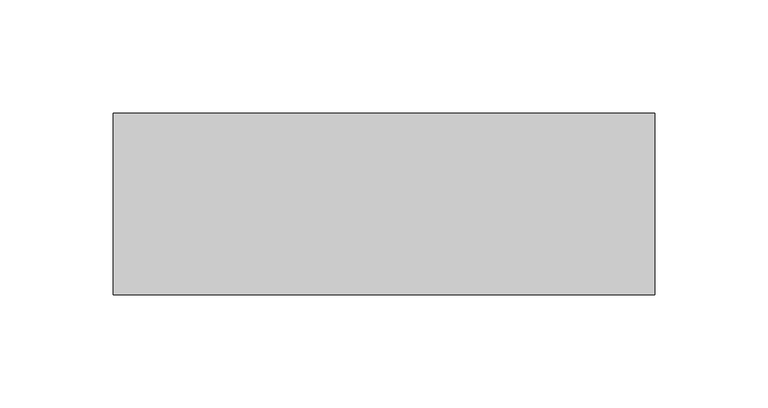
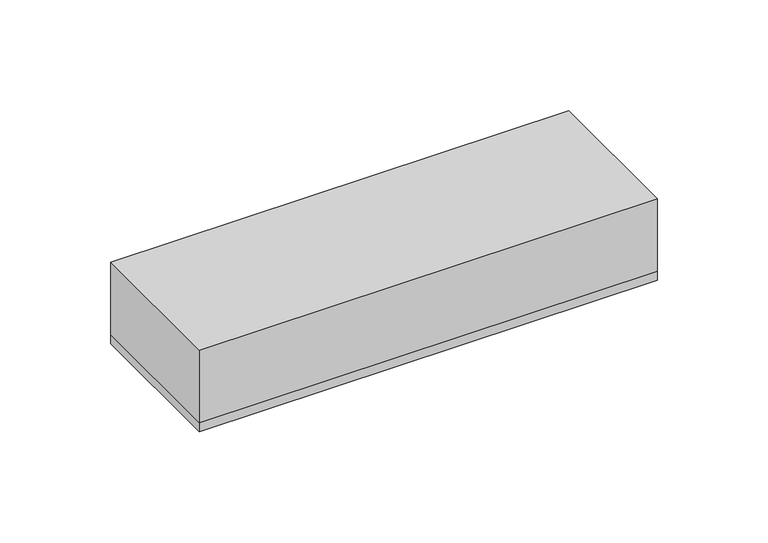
"""IFC4 building model written with IfcOpenShell, lengths in millimetres: switching device geometry, ZYR_06.03 Emer Sostre Rect : 01 Emergencia Superficie 01."""

from ifc_helpers import new_model, si_unit, frame, origin, place, context, project, spatial, polyline, outline, extrude, source, transform, mapped, element, save


def switching_device_d7eaef45(model_context):
    return source(origin(), model_context, "Body", "SweptSolid", [
        extrude(outline(polyline([(119.5, 40.0), (119.5, -40.0), (-119.5, -40.0), (-119.5, 40.0), (119.5, 40.0)])), frame((0.0, 0.0, -40.0), z_axis=(0.0, 0.0, 1.0), x_axis=(1.0, 0.0, 0.0)), (0.0, 0.0, 1.0), 40.0),
        extrude(outline(polyline([(119.5, 40.0), (119.5, -40.0), (-119.5, -40.0), (-119.5, 40.0), (119.5, 40.0)])), frame((0.0, 0.0, -45.0), z_axis=(0.0, 0.0, 1.0), x_axis=(1.0, 0.0, 0.0)), (0.0, 0.0, 1.0), 5.0),
    ])


if __name__ == "__main__":
    model = new_model("IFC4")
    model_context = context("Model", 3, world=origin())
    ifc_project = project(units=[si_unit("LENGTHUNIT", "METRE", prefix="MILLI")], contexts=[model_context])
    site = spatial("IfcSite", under=ifc_project)
    building = spatial("IfcBuilding", under=site)
    placement = place(None, origin())
    switching_device_shape = switching_device_d7eaef45(model_context)
    element("IfcSwitchingDevice", 1, ObjectType="ZYR_06.03 Emer Sostre Rect : 01 Emergencia Superficie 01", at=placement, inside=building, context=model_context, shape_type="MappedRepresentation", body=[
        mapped(switching_device_shape, transform((0.0, 0.0, 0.0), x_axis=(1.0, 0.0, 0.0), y_axis=(0.0, 1.0, 0.0), z_axis=(0.0, 0.0, 1.0))),
    ])
    save(model, "model.ifc")
